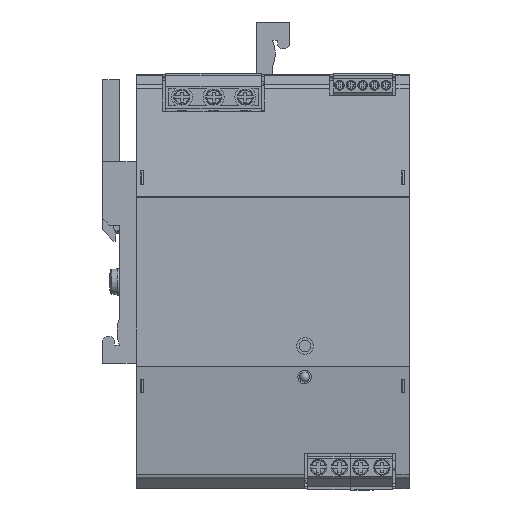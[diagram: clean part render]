
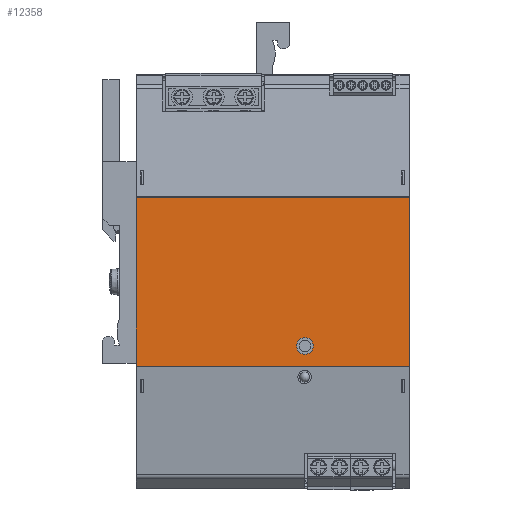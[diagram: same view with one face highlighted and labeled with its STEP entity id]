
A CAD part, front view. The second image highlights one B-rep face of the part: STEP entity #12358.
In plain terms, the highlighted planar face has unit normal (0, -1, 0).
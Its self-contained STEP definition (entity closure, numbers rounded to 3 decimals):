
#12358 = ADVANCED_FACE( '', ( #26096, #26097 ), #26098, .T. );
#26096 = FACE_OUTER_BOUND( '', #52165, .T. );
#26097 = FACE_BOUND( '', #52166, .T. );
#26098 = PLANE( '', #52167 );
#52165 = EDGE_LOOP( '', ( #92397, #92398, #92399, #92400 ) );
#52166 = EDGE_LOOP( '', ( #92401 ) );
#52167 = AXIS2_PLACEMENT_3D( '', #92402, #92403, #92404 );
#92397 = ORIENTED_EDGE( '', *, *, #105515, .F. );
#92398 = ORIENTED_EDGE( '', *, *, #109887, .F. );
#92399 = ORIENTED_EDGE( '', *, *, #97914, .T. );
#92400 = ORIENTED_EDGE( '', *, *, #107895, .T. );
#92401 = ORIENTED_EDGE( '', *, *, #97602, .F. );
#92402 = CARTESIAN_POINT( '', ( 41., -55.11, 25.39 ) );
#92403 = DIRECTION( '', ( 0., -1., 0. ) );
#92404 = DIRECTION( '', ( 1., 0., 0. ) );
#97602 = EDGE_CURVE( '', #117638, #117638, #117639, .T. );
#97914 = EDGE_CURVE( '', #118168, #118166, #118169, .T. );
#105515 = EDGE_CURVE( '', #129985, #129987, #129988, .T. );
#107895 = EDGE_CURVE( '', #118166, #129987, #133099, .T. );
#109887 = EDGE_CURVE( '', #118168, #129985, #135289, .T. );
#117638 = VERTEX_POINT( '', #146208 );
#117639 = CIRCLE( '', #146209, 2.5 );
#118166 = VERTEX_POINT( '', #147019 );
#118168 = VERTEX_POINT( '', #147021 );
#118169 = LINE( '', #147022, #147023 );
#129985 = VERTEX_POINT( '', #165882 );
#129987 = VERTEX_POINT( '', #165884 );
#129988 = LINE( '', #165885, #165886 );
#133099 = LINE( '', #170988, #170989 );
#135289 = LINE( '', #174238, #174239 );
#146208 = CARTESIAN_POINT( '', ( 7.195, -55.11, -19.266 ) );
#146209 = AXIS2_PLACEMENT_3D( '', #177629, #177630, #177631 );
#147019 = CARTESIAN_POINT( '', ( 41., -55.11, 25.322 ) );
#147021 = CARTESIAN_POINT( '', ( 41., -55.11, -25.322 ) );
#147022 = CARTESIAN_POINT( '', ( 41., -55.11, 25.39 ) );
#147023 = VECTOR( '', #177867, 1000. );
#165882 = CARTESIAN_POINT( '', ( -41., -55.11, -25.322 ) );
#165884 = CARTESIAN_POINT( '', ( -41., -55.11, 25.322 ) );
#165885 = CARTESIAN_POINT( '', ( -41., -55.11, 25.39 ) );
#165886 = VECTOR( '', #184026, 1000. );
#170988 = CARTESIAN_POINT( '', ( 41., -55.11, 25.322 ) );
#170989 = VECTOR( '', #185748, 1000. );
#174238 = CARTESIAN_POINT( '', ( 41., -55.11, -25.322 ) );
#174239 = VECTOR( '', #186717, 1000. );
#177629 = CARTESIAN_POINT( '', ( 9.695, -55.11, -19.266 ) );
#177630 = DIRECTION( '', ( 0., -1., 0. ) );
#177631 = DIRECTION( '', ( -1., 0., 0. ) );
#177867 = DIRECTION( '', ( 0., 0., 1. ) );
#184026 = DIRECTION( '', ( 0., 0., 1. ) );
#185748 = DIRECTION( '', ( -1., 0., 0. ) );
#186717 = DIRECTION( '', ( -1., 0., 0. ) );
